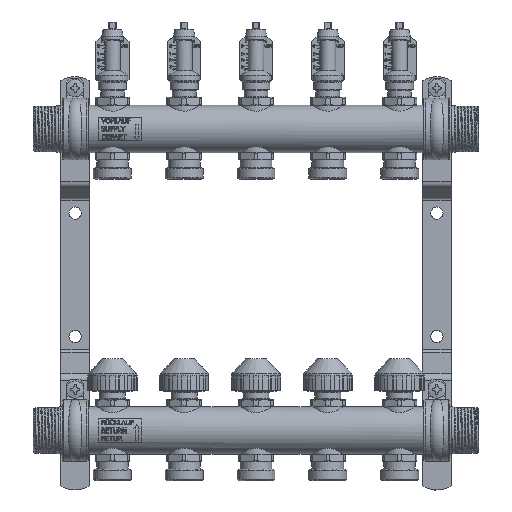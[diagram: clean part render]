
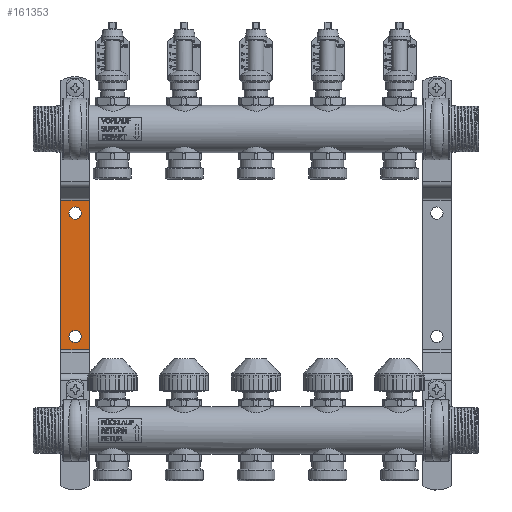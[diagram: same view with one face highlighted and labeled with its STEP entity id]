
A CAD part, top view. The second image highlights one B-rep face of the part: STEP entity #161353.
In plain terms, the highlighted planar face has unit normal (0, 0, 1).
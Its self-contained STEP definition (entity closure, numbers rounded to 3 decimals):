
#161266=CARTESIAN_POINT('',(-15.,-153.73,-35.));
#161267=VERTEX_POINT('',#161266);
#161275=CARTESIAN_POINT('',(-35.,-153.73,-35.));
#161276=VERTEX_POINT('',#161275);
#161277=CARTESIAN_POINT('',(-15.,-153.73,-35.));
#161278=DIRECTION('',(-1.0,0.0,0.0));
#161279=VECTOR('',#161278,20.);
#161280=LINE('',#161277,#161279);
#161281=EDGE_CURVE('',#161267,#161276,#161280,.T.);
#161301=CARTESIAN_POINT('',(-15.,-48.473,-35.));
#161302=DIRECTION('',(0.0,0.0,1.0));
#161303=DIRECTION('',(-1.0,0.0,0.0));
#161304=AXIS2_PLACEMENT_3D('',#161301,#161302,#161303);
#161305=PLANE('',#161304);
#161306=ORIENTED_EDGE('',*,*,#161281,.F.);
#161307=CARTESIAN_POINT('',(-15.,-49.636,-35.));
#161308=VERTEX_POINT('',#161307);
#161309=CARTESIAN_POINT('',(-15.,-49.636,-35.));
#161310=DIRECTION('',(0.0,-1.0,0.0));
#161311=VECTOR('',#161310,104.095);
#161312=LINE('',#161309,#161311);
#161313=EDGE_CURVE('',#161308,#161267,#161312,.T.);
#161314=ORIENTED_EDGE('',*,*,#161313,.F.);
#161315=CARTESIAN_POINT('',(-35.,-49.636,-35.));
#161316=VERTEX_POINT('',#161315);
#161317=CARTESIAN_POINT('',(-35.,-49.636,-35.));
#161318=DIRECTION('',(1.0,0.0,0.0));
#161319=VECTOR('',#161318,20.);
#161320=LINE('',#161317,#161319);
#161321=EDGE_CURVE('',#161316,#161308,#161320,.T.);
#161322=ORIENTED_EDGE('',*,*,#161321,.F.);
#161323=CARTESIAN_POINT('',(-35.,-49.636,-35.));
#161324=DIRECTION('',(0.0,-1.0,0.0));
#161325=VECTOR('',#161324,104.095);
#161326=LINE('',#161323,#161325);
#161327=EDGE_CURVE('',#161316,#161276,#161326,.T.);
#161328=ORIENTED_EDGE('',*,*,#161327,.T.);
#161329=EDGE_LOOP('',(#161306,#161314,#161322,#161328));
#161330=FACE_OUTER_BOUND('',#161329,.T.);
#161331=CARTESIAN_POINT('',(-25.,-140.25,-35.));
#161332=VERTEX_POINT('',#161331);
#161333=CARTESIAN_POINT('',(-25.,-144.5,-35.));
#161334=DIRECTION('',(0.0,0.0,-1.0));
#161335=DIRECTION('',(0.0,-1.0,0.0));
#161336=AXIS2_PLACEMENT_3D('',#161333,#161334,#161335);
#161337=CIRCLE('',#161336,4.25);
#161338=EDGE_CURVE('',#161332,#161332,#161337,.T.);
#161339=ORIENTED_EDGE('',*,*,#161338,.T.);
#161340=EDGE_LOOP('',(#161339));
#161341=FACE_BOUND('',#161340,.T.);
#161342=CARTESIAN_POINT('',(-25.,-54.25,-35.));
#161343=VERTEX_POINT('',#161342);
#161344=CARTESIAN_POINT('',(-25.,-58.5,-35.));
#161345=DIRECTION('',(0.0,0.0,-1.0));
#161346=DIRECTION('',(0.0,-1.0,0.0));
#161347=AXIS2_PLACEMENT_3D('',#161344,#161345,#161346);
#161348=CIRCLE('',#161347,4.25);
#161349=EDGE_CURVE('',#161343,#161343,#161348,.T.);
#161350=ORIENTED_EDGE('',*,*,#161349,.T.);
#161351=EDGE_LOOP('',(#161350));
#161352=FACE_BOUND('',#161351,.T.);
#161353=ADVANCED_FACE('',(#161330,#161341,#161352),#161305,.T.);
